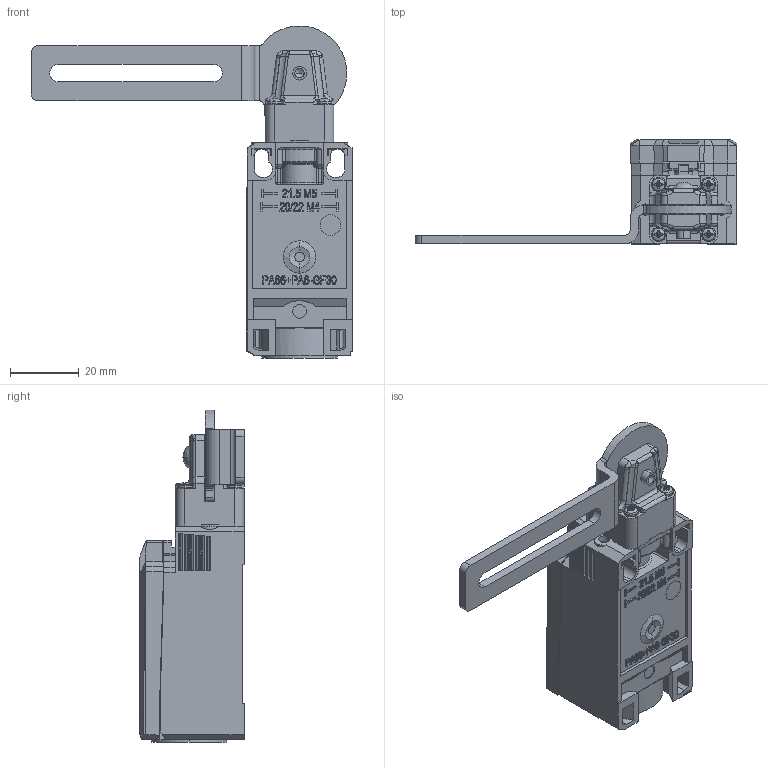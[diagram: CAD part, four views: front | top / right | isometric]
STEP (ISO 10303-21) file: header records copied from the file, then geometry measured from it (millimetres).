
FILE_DESCRIPTION((''),'2;1');
FILE_NAME('6083000392_01','2023-10-30T07:42:57',('Michaela.Grimm'),(''),'CREO PARAMETRIC BY PTC INC, 2022124','CREO PARAMETRIC BY PTC INC, 2022124','');
FILE_SCHEMA(('AUTOMOTIVE_DESIGN { 1 0 10303 214 1 1 1 1 }'));
Products named in the file (1): 6083000392_01
Bounding box: 93.5 x 30.3 x 96.47 mm (x, y, z)
Volume: 54585.9 mm3; surface area: 22233.3 mm2
Topology: 2 solids, 2 shells, 1818 faces, 4838 edges, 3077 vertices
Faces by surface type: plane 1033, extrusion 307, cylinder 288, torus 83, bspline 39, sphere 36, cone 32
Entity records: 89642 total; most frequent: CARTESIAN_POINT 15895, ORIENTED_EDGE 9624, DIRECTION 8053, PRESENTATION_STYLE_ASSIGNMENT 6942, STYLED_ITEM 5125, CURVE_STYLE 5123, EDGE_CURVE 4812, VECTOR 3414
